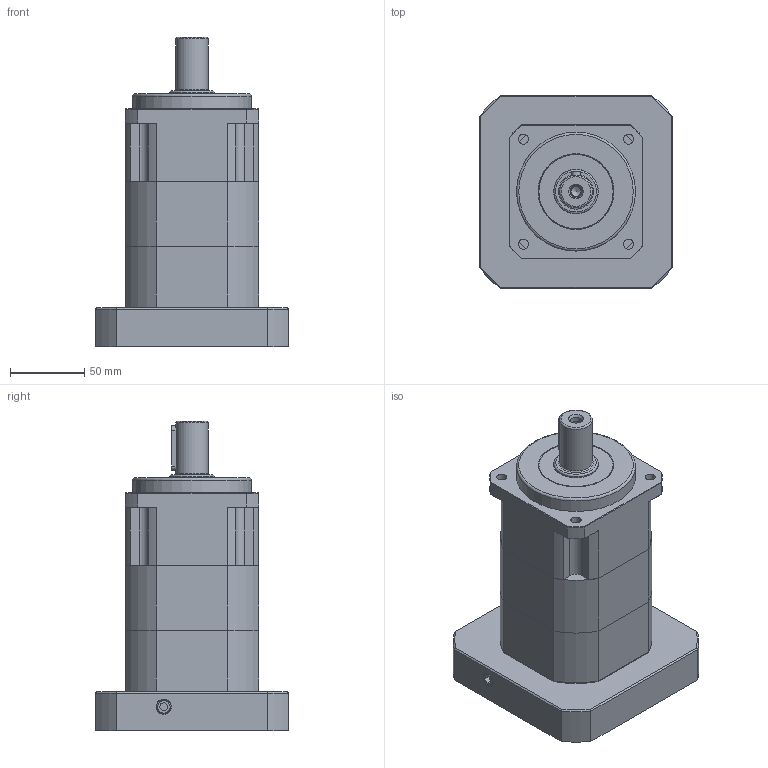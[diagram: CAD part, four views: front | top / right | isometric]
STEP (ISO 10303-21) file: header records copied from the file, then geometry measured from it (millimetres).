
FILE_DESCRIPTION((''),'2;1');
FILE_NAME('C:\Work\감속기 카다로그 도면\ATG Reducer(홈페이지)\KSB\추가수정\KSB-90A-2 (S24).stp','2014-06-24T12:00:41',('young'),(''),'Autodesk Inventor 2012','Autodesk Inventor 2012','');
FILE_SCHEMA(('AUTOMOTIVE_DESIGN { 1 0 10303 214 1 1 1 1 }'));
Length unit declared in the file: millimetre
Products named in the file (1): KSB-90A-2 (S24)
Bounding box: 130 x 130 x 208 mm (x, y, z)
Volume: 1107618.7 mm3; surface area: 200095.2 mm2
Topology: 17 solids, 17 shells, 530 faces, 1268 edges, 814 vertices
Faces by surface type: plane 283, cylinder 153, cone 68, torus 15, bspline 11
Full cylindrical faces by diameter (mm): 4.2 x4, 4.5 x4, 5 x4, 5.1 x1, 5.5 x4, 6 x5, 6.5 x1, 6.8 x13, 8 x5, 8.433 x2, 9.5 x2, 10 x5, 22 x1, 24.2 x1, 24.9 x1, 28.2 x1, 28.8 x1, 29.8 x1, 30 x2, 39 x1, 45 x2, 50 x2, 68 x1, 78 x2, 80 x1, 110 x1
Entity records: 15865 total; most frequent: CARTESIAN_POINT 3856, DIRECTION 2519, ORIENTED_EDGE 2230, EDGE_CURVE 1115, AXIS2_PLACEMENT_3D 952, VERTEX_POINT 784, EDGE_LOOP 743, VECTOR 615
